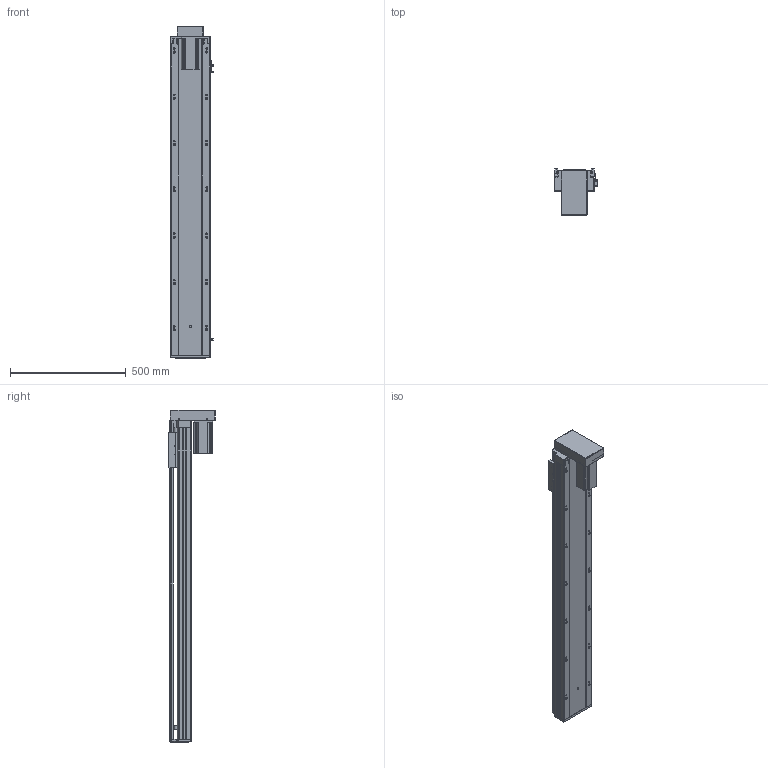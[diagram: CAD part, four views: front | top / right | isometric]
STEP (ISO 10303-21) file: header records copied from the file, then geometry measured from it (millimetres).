
FILE_DESCRIPTION (( 'STEP AP203' ), '1' );
FILE_NAME ('RY170-L2510-1400-BK.SLDASM_1100.step', '2021-03-12T09:25:57', ( '盈信电脑' ), ( '东莞市道滘镇水果街19号' ), 'SwSTEP 2.0', 'SolidWorks 2012', '' );
FILE_SCHEMA (( 'CONFIG_CONTROL_DESIGN' ));
Length unit declared in the file: millimetre
Products named in the file (14): RY170-L2510-1400-BK.SLDASM_1100; 怢湛750W萇儂ㄗ80遺ㄘ; 滅袉蝶18-15; RY170-狟殏750W萇儂傷; RY170狟殏萇儂欶; 滅袉蝶18-20; RY170转折电机端支撑座(7004); RY170-狟殏萇儂假蚾啣; 覜茼ん672; RY170綴裔啣; RY170-1400倰第裔啣-BK_1100; RY170外置感应片(200共用）; RY170-1400倰第菁釱-BK_1100; 改造-RY170铝滑块25丝杆螺母
Assembly tree (15 placements, depth 3):
  RY170-L2510-1400-BK.SLDASM_1100
    RY170-1400倰第菁釱-BK_1100
    改造-RY170铝滑块25丝杆螺母
    RY170-1400倰第裔啣-BK_1100
    RY170綴裔啣
    覜茼ん672  x3
    RY170外置感应片(200共用）
    滅袉蝶18-20
    RY170转折电机端支撑座(7004)
    RY170-狟殏750W萇儂傷
      RY170-狟殏萇儂假蚾啣
      RY170狟殏萇儂欶
      怢湛750W萇儂ㄗ80遺ㄘ
    滅袉蝶18-15
Bounding box: 183.7 x 200.8 x 1434.5 mm (x, y, z)
Volume: 7742462.8 mm3; surface area: 2427560.1 mm2
Topology: 14 solids, 14 shells, 2182 faces, 6241 edges, 3994 vertices
Faces by surface type: plane 1082, cylinder 887, cone 194, bspline 19
Entity records: 70226 total; most frequent: CARTESIAN_POINT 16755, ORIENTED_EDGE 11186, DIRECTION 10389, EDGE_CURVE 5593, VERTEX_POINT 3674, VECTOR 3473, LINE 3473, AXIS2_PLACEMENT_3D 3458
